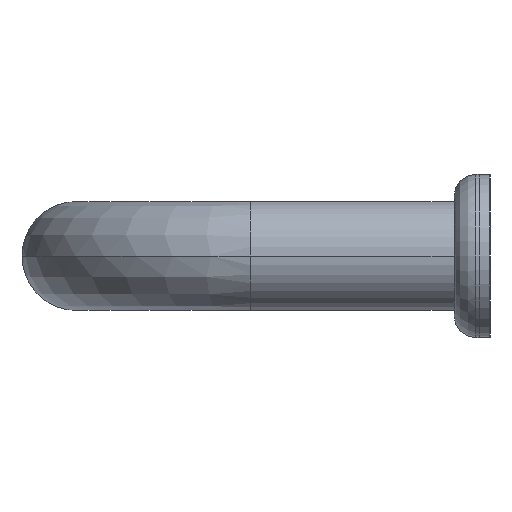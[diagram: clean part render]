
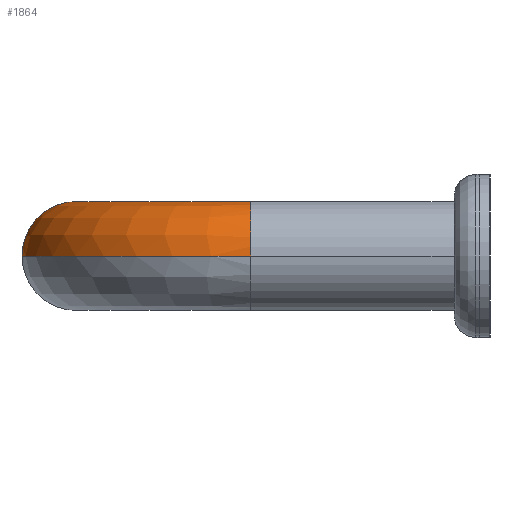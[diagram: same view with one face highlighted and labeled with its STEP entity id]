
A CAD part, left-side view. The second image highlights one B-rep face of the part: STEP entity #1864.
In plain terms, the highlighted free-form (B-spline) face has degree [3, 3] with [7, 11] control points.
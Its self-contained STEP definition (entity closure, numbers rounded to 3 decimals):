
#1413=CARTESIAN_POINT('',(-73.586,55.951,5.0));
#1414=VERTEX_POINT('',#1413);
#1708=CARTESIAN_POINT('',(-52.586,76.951,5.0));
#1709=VERTEX_POINT('',#1708);
#1716=CARTESIAN_POINT('',(-52.586,71.951,10.0));
#1717=VERTEX_POINT('',#1716);
#1718=CARTESIAN_POINT('',(-52.586,71.951,5.0));
#1719=DIRECTION('',(1.0,0.0,0.0));
#1720=DIRECTION('',(0.0,1.0,0.0));
#1721=AXIS2_PLACEMENT_3D('',#1718,#1719,#1720);
#1722=CIRCLE('',#1721,5.0);
#1723=EDGE_CURVE('',#1709,#1717,#1722,.T.);
#1760=CARTESIAN_POINT('',(-52.586,76.951,5.0));
#1761=CARTESIAN_POINT('',(-52.586,76.951,5.65));
#1762=CARTESIAN_POINT('',(-52.586,76.69,6.965));
#1763=CARTESIAN_POINT('',(-52.586,75.578,8.627));
#1764=CARTESIAN_POINT('',(-52.586,73.916,9.74));
#1765=CARTESIAN_POINT('',(-52.586,72.601,10.0));
#1766=CARTESIAN_POINT('',(-52.586,71.951,10.0));
#1767=CARTESIAN_POINT('',(-53.958,76.951,5.0));
#1768=CARTESIAN_POINT('',(-53.958,76.951,5.65));
#1769=CARTESIAN_POINT('',(-53.941,76.69,6.965));
#1770=CARTESIAN_POINT('',(-53.869,75.578,8.627));
#1771=CARTESIAN_POINT('',(-53.76,73.916,9.74));
#1772=CARTESIAN_POINT('',(-53.674,72.601,10.0));
#1773=CARTESIAN_POINT('',(-53.632,71.951,10.0));
#1774=CARTESIAN_POINT('',(-56.71,76.68,5.0));
#1775=CARTESIAN_POINT('',(-56.71,76.68,5.65));
#1776=CARTESIAN_POINT('',(-56.659,76.423,6.965));
#1777=CARTESIAN_POINT('',(-56.441,75.325,8.627));
#1778=CARTESIAN_POINT('',(-56.114,73.684,9.74));
#1779=CARTESIAN_POINT('',(-55.856,72.386,10.0));
#1780=CARTESIAN_POINT('',(-55.728,71.744,10.0));
#1781=CARTESIAN_POINT('',(-60.674,75.477,5.0));
#1782=CARTESIAN_POINT('',(-60.674,75.477,5.65));
#1783=CARTESIAN_POINT('',(-60.574,75.235,6.965));
#1784=CARTESIAN_POINT('',(-60.145,74.201,8.627));
#1785=CARTESIAN_POINT('',(-59.505,72.655,9.74));
#1786=CARTESIAN_POINT('',(-58.999,71.433,10.0));
#1787=CARTESIAN_POINT('',(-58.748,70.828,10.0));
#1788=CARTESIAN_POINT('',(-64.328,73.524,5.));
#1789=CARTESIAN_POINT('',(-64.328,73.524,5.65));
#1790=CARTESIAN_POINT('',(-64.183,73.306,6.965));
#1791=CARTESIAN_POINT('',(-63.561,72.375,8.627));
#1792=CARTESIAN_POINT('',(-62.631,70.984,9.74));
#1793=CARTESIAN_POINT('',(-61.896,69.884,10.));
#1794=CARTESIAN_POINT('',(-61.533,69.34,10.));
#1795=CARTESIAN_POINT('',(-67.531,70.896,5.0));
#1796=CARTESIAN_POINT('',(-67.531,70.896,5.65));
#1797=CARTESIAN_POINT('',(-67.346,70.71,6.965));
#1798=CARTESIAN_POINT('',(-66.554,69.918,8.627));
#1799=CARTESIAN_POINT('',(-65.371,68.736,9.74));
#1800=CARTESIAN_POINT('',(-64.435,67.8,10.0));
#1801=CARTESIAN_POINT('',(-63.973,67.337,10.0));
#1802=CARTESIAN_POINT('',(-70.159,67.693,5.));
#1803=CARTESIAN_POINT('',(-70.159,67.693,5.65));
#1804=CARTESIAN_POINT('',(-69.942,67.547,6.965));
#1805=CARTESIAN_POINT('',(-69.011,66.925,8.627));
#1806=CARTESIAN_POINT('',(-67.62,65.996,9.74));
#1807=CARTESIAN_POINT('',(-66.519,65.261,10.));
#1808=CARTESIAN_POINT('',(-65.975,64.897,10.));
#1809=CARTESIAN_POINT('',(-72.113,64.038,5.));
#1810=CARTESIAN_POINT('',(-72.113,64.038,5.65));
#1811=CARTESIAN_POINT('',(-71.871,63.938,6.965));
#1812=CARTESIAN_POINT('',(-70.836,63.51,8.627));
#1813=CARTESIAN_POINT('',(-69.291,62.87,9.74));
#1814=CARTESIAN_POINT('',(-68.068,62.363,10.));
#1815=CARTESIAN_POINT('',(-67.463,62.113,10.));
#1816=CARTESIAN_POINT('',(-73.315,60.075,5.));
#1817=CARTESIAN_POINT('',(-73.315,60.075,5.65));
#1818=CARTESIAN_POINT('',(-73.058,60.024,6.965));
#1819=CARTESIAN_POINT('',(-71.96,59.805,8.627));
#1820=CARTESIAN_POINT('',(-70.32,59.479,9.74));
#1821=CARTESIAN_POINT('',(-69.022,59.221,10.));
#1822=CARTESIAN_POINT('',(-68.38,59.093,10.));
#1823=CARTESIAN_POINT('',(-73.586,57.323,5.0));
#1824=CARTESIAN_POINT('',(-73.586,57.323,5.65));
#1825=CARTESIAN_POINT('',(-73.326,57.306,6.965));
#1826=CARTESIAN_POINT('',(-72.213,57.233,8.627));
#1827=CARTESIAN_POINT('',(-70.551,57.125,9.74));
#1828=CARTESIAN_POINT('',(-69.236,57.039,10.0));
#1829=CARTESIAN_POINT('',(-68.586,56.996,10.0));
#1830=CARTESIAN_POINT('',(-73.586,55.951,5.0));
#1831=CARTESIAN_POINT('',(-73.586,55.951,5.65));
#1832=CARTESIAN_POINT('',(-73.326,55.951,6.965));
#1833=CARTESIAN_POINT('',(-72.213,55.951,8.627));
#1834=CARTESIAN_POINT('',(-70.551,55.951,9.74));
#1835=CARTESIAN_POINT('',(-69.236,55.951,10.0));
#1836=CARTESIAN_POINT('',(-68.586,55.951,10.0));
#1837=B_SPLINE_SURFACE_WITH_KNOTS('',3,3,((#1760,#1767,#1774,#1781,#1788,#1795,#1802,#1809,#1816,#1823,#1830),(#1761,#1768,#1775,#1782,#1789,#1796,#1803,#1810,#1817,#1824,#1831),(#1762,#1769,#1776,#1783,#1790,#1797,#1804,#1811,#1818,#1825,#1832),(#1763,#1770,#1777,#1784,#1791,#1798,#1805,#1812,#1819,#1826,#1833),(#1764,#1771,#1778,#1785,#1792,#1799,#1806,#1813,#1820,#1827,#1834),(#1765,#1772,#1779,#1786,#1793,#1800,#1807,#1814,#1821,#1828,#1835),(#1766,#1773,#1780,#1787,#1794,#1801,#1808,#1815,#1822,#1829,#1836)),.UNSPECIFIED.,.F.,.F.,.U.,(4,1,1,1,4),(4,1,1,1,1,1,1,1,4),(0.0,1.951,3.902,5.853,7.804),(0.0,3.727,7.455,11.182,14.909,18.637,22.364,26.091,29.819),.UNSPECIFIED.);
#1838=CARTESIAN_POINT('',(-52.586,55.951,5.0));
#1839=DIRECTION('',(0.0,0.0,1.0));
#1840=DIRECTION('',(0.0,1.0,0.0));
#1841=AXIS2_PLACEMENT_3D('',#1838,#1839,#1840);
#1842=CIRCLE('',#1841,21.0);
#1843=EDGE_CURVE('',#1709,#1414,#1842,.T.);
#1844=ORIENTED_EDGE('',*,*,#1843,.T.);
#1845=CARTESIAN_POINT('',(-68.586,55.951,10.0));
#1846=VERTEX_POINT('',#1845);
#1847=CARTESIAN_POINT('',(-68.586,55.951,5.0));
#1848=DIRECTION('',(0.0,1.0,0.0));
#1849=DIRECTION('',(-1.0,0.0,0.0));
#1850=AXIS2_PLACEMENT_3D('',#1847,#1848,#1849);
#1851=CIRCLE('',#1850,5.0);
#1852=EDGE_CURVE('',#1414,#1846,#1851,.T.);
#1853=ORIENTED_EDGE('',*,*,#1852,.T.);
#1854=CARTESIAN_POINT('',(-52.586,55.951,10.0));
#1855=DIRECTION('',(0.0,0.0,-1.0));
#1856=DIRECTION('',(0.0,1.0,0.0));
#1857=AXIS2_PLACEMENT_3D('',#1854,#1855,#1856);
#1858=CIRCLE('',#1857,16.0);
#1859=EDGE_CURVE('',#1846,#1717,#1858,.T.);
#1860=ORIENTED_EDGE('',*,*,#1859,.T.);
#1861=ORIENTED_EDGE('',*,*,#1723,.F.);
#1862=EDGE_LOOP('',(#1844,#1853,#1860,#1861));
#1863=FACE_OUTER_BOUND('',#1862,.T.);
#1864=ADVANCED_FACE('',(#1863),#1837,.F.);
